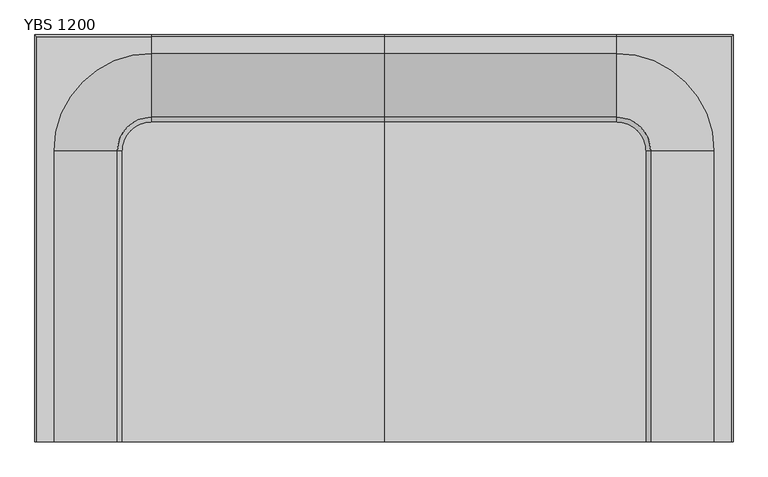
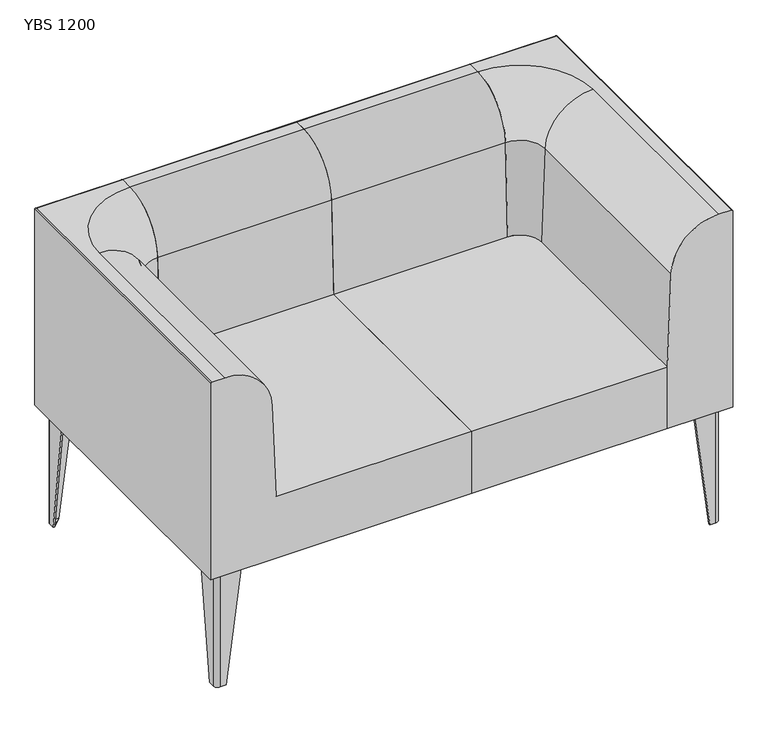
"""IFC4 building model written with IfcOpenShell, lengths in millimetres: furniture geometry, Mobiliário_Mobiliário de Escritório_LinhaYoung_Sofa Braço (Aço) - YB_Marelli : YBS 1200."""

from ifc_helpers import new_model, si_unit, point, frame, frame_2d, origin, origin_with_axes, place, context, project, spatial, polyline, circle_curve, ellipse_curve, trimmed, segment, composite_curve, outline, extrude, source, transform, mapped, element, save
from ifc_brep_helpers import plane_surface, cylinder_surface, revolved_surface, advanced_brep


def ybs_1200_3b72d0d0(model_context):
    return source(origin(), model_context, "Body", "SolidModel", [
        advanced_brep(
        [(20.0, 75.0, 280.0), (20.0, 25.0, 280.0), (30.0, 15.0, 280.0), (80.0, 15.0, 280.0), (80.0, 18.0, 280.0), (30.0, 18.0, 280.0), (23.0, 25.0, 280.0), (23.0, 75.0, 280.0), (20.0, 39.0, 0.0), (23.0, 39.0, 0.0), (23.0, 25.0, 0.0), (30.0, 18.0, 0.0), (44.0, 18.0, 0.0), (44.0, 15.0, 0.0), (30.0, 15.0, 0.0), (20.0, 25.0, 0.0)],
        [
            (0, 1),
            (1, 2, circle_curve(frame((30.0, 25.0, 280.0), z_axis=(0.0, 0.0, 1.0), x_axis=(0.0, -1.0, 0.0)), 10.0)),
            (2, 3),
            (3, 4),
            (4, 5),
            (5, 6, circle_curve(frame((30.0, 25.0, 280.0), z_axis=(0.0, 0.0, -1.0), x_axis=(-1.0, 0.0, 0.0)), 7.0)),
            (6, 7),
            (7, 0),
            (8, 9),
            (9, 10),
            (10, 11, circle_curve(frame((30.0, 25.0, 0.0), z_axis=(0.0, 0.0, 1.0), x_axis=(-1.0, 0.0, 0.0)), 7.0)),
            (11, 12),
            (12, 13),
            (13, 14),
            (14, 15, circle_curve(frame((30.0, 25.0, 0.0), z_axis=(0.0, 0.0, -1.0), x_axis=(0.0, -1.0, 0.0)), 10.0)),
            (15, 8),
            (15, 1),
            (0, 8),
            (14, 2),
            (13, 3),
            (12, 4),
            (11, 5),
            (10, 6),
            (9, 7),
        ],
        [
            plane_surface(frame((38.25, 33.25, 280.0), z_axis=(0.0, 0.0, 1.0), x_axis=(0.0, -1.0, 0.0))),
            plane_surface(frame((29.25, 24.25, 0.0), z_axis=(0.0, 0.0, -1.0), x_axis=(0.0, -1.0, 0.0))),
            plane_surface(frame((20.0, 32.0, 0.0), z_axis=(-1.0, 0.0, 0.0), x_axis=(0.0, -1.0, 0.0))),
            cylinder_surface(frame((30.0, 25.0, 0.0), z_axis=(0.0, 0.0, 1.0), x_axis=(0.0, -1.0, 0.0)), 10.0),
            plane_surface(frame((37.0, 15.0, 0.0), z_axis=(0.0, -1.0, 0.0), x_axis=(1.0, 0.0, 0.0))),
            plane_surface(frame((44.0, 16.5, 0.0), z_axis=(0.9918357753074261, 0.0, -0.12752174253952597), x_axis=(0.0, 1.0, 0.0))),
            plane_surface(frame((37.0, 18.0, 0.0), z_axis=(0.0, 1.0, 0.0), x_axis=(-1.0, 0.0, 0.0))),
            revolved_surface(polyline([(23.0, 25.0, 280.0), (23.0, 25.0, 0.0)]), (30.0, 25.0, 0.0), (0.0, 0.0, 1.0)),
            plane_surface(frame((23.0, 32.0, 0.0), z_axis=(1.0, 0.0, 0.0), x_axis=(0.0, 1.0, 0.0))),
            plane_surface(frame((21.5, 39.0, 0.0), z_axis=(0.0, 0.9918357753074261, -0.12752174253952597), x_axis=(-1.0, 0.0, 0.0))),
        ],
        [
            (0, [[1, 2, 3, 4, 5, 6, 7, 8]]),
            (1, [[9, 10, 11, 12, 13, 14, 15, 16]]),
            (2, [[-16, 17, -1, 18]]),
            (3, [[-15, 19, -2, -17]]),
            (4, [[-14, 20, -3, -19]]),
            (5, [[-13, 21, -4, -20]]),
            (6, [[-12, 22, -5, -21]]),
            (7, [[-11, 23, -6, -22]]),
            (8, [[-10, 24, -7, -23]]),
            (9, [[-9, -18, -8, -24]]),
        ],
    ),
        advanced_brep(
        [(1180.0, 75.0, 280.0), (1177.0, 75.0, 280.0), (1177.0, 25.0, 280.0), (1170.0, 18.0, 280.0), (1120.0, 18.0, 280.0), (1120.0, 15.0, 280.0), (1170.0, 15.0, 280.0), (1180.0, 25.0, 280.0), (1180.0, 39.0, 0.0), (1180.0, 25.0, 0.0), (1170.0, 15.0, 0.0), (1156.0, 15.0, 0.0), (1156.0, 18.0, 0.0), (1170.0, 18.0, 0.0), (1177.0, 25.0, 0.0), (1177.0, 39.0, 0.0)],
        [
            (0, 1),
            (1, 2),
            (2, 3, circle_curve(frame((1170.0, 25.0, 280.0), z_axis=(0.0, 0.0, -1.0), x_axis=(0.0, -1.0, 0.0)), 7.0)),
            (3, 4),
            (4, 5),
            (5, 6),
            (6, 7, circle_curve(frame((1170.0, 25.0, 280.0), z_axis=(0.0, 0.0, 1.0), x_axis=(1.0, 0.0, 0.0)), 10.0)),
            (7, 0),
            (8, 9),
            (9, 10, circle_curve(frame((1170.0, 25.0, 0.0), z_axis=(0.0, 0.0, -1.0), x_axis=(1.0, 0.0, 0.0)), 10.0)),
            (10, 11),
            (11, 12),
            (12, 13),
            (13, 14, circle_curve(frame((1170.0, 25.0, 0.0), z_axis=(0.0, 0.0, 1.0), x_axis=(0.0, -1.0, 0.0)), 7.0)),
            (14, 15),
            (15, 8),
            (8, 0),
            (7, 9),
            (6, 10),
            (5, 11),
            (4, 12),
            (3, 13),
            (2, 14),
            (1, 15),
        ],
        [
            plane_surface(frame((1161.75, 33.25, 280.0), z_axis=(0.0, 0.0, 1.0), x_axis=(-1.0, 0.0, 0.0))),
            plane_surface(frame((1170.75, 24.25, 0.0), z_axis=(0.0, 0.0, -1.0), x_axis=(-1.0, 0.0, 0.0))),
            plane_surface(frame((1180.0, 32.0, 0.0), z_axis=(1.0, 0.0, 0.0), x_axis=(0.0, 1.0, 0.0))),
            cylinder_surface(frame((1170.0, 25.0, 0.0), z_axis=(0.0, 0.0, 1.0), x_axis=(1.0, 0.0, 0.0)), 10.0),
            plane_surface(frame((1163.0, 15.0, 0.0), z_axis=(0.0, -1.0, 0.0), x_axis=(1.0, 0.0, 0.0))),
            plane_surface(frame((1156.0, 16.5, 0.0), z_axis=(-0.9918357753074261, 0.0, -0.127521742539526), x_axis=(0.0, -1.0, 0.0))),
            plane_surface(frame((1163.0, 18.0, 0.0), z_axis=(0.0, 1.0, 0.0), x_axis=(-1.0, 0.0, 0.0))),
            revolved_surface(polyline([(1170.0, 18.0, 280.0), (1170.0, 18.0, 0.0)]), (1170.0, 25.0, 0.0), (0.0, 0.0, 1.0)),
            plane_surface(frame((1177.0, 32.0, 0.0), z_axis=(-1.0, 0.0, 0.0), x_axis=(0.0, -1.0, 0.0))),
            plane_surface(frame((1178.5, 39.0, 0.0), z_axis=(0.0, 0.9918357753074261, -0.12752174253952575), x_axis=(-1.0, 0.0, 0.0))),
        ],
        [
            (0, [[1, 2, 3, 4, 5, 6, 7, 8]]),
            (1, [[9, 10, 11, 12, 13, 14, 15, 16]]),
            (2, [[-9, 17, -8, 18]]),
            (3, [[-10, -18, -7, 19]]),
            (4, [[-11, -19, -6, 20]]),
            (5, [[-12, -20, -5, 21]]),
            (6, [[-13, -21, -4, 22]]),
            (7, [[-14, -22, -3, 23]]),
            (8, [[-15, -23, -2, 24]]),
            (9, [[-16, -24, -1, -17]]),
        ],
    ),
        advanced_brep(
        [(20.0, 625.0, 280.0), (23.0, 625.0, 280.0), (23.0, 675.0, 280.0), (30.0, 682.0, 280.0), (80.0, 682.0, 280.0), (80.0, 685.0, 280.0), (30.0, 685.0, 280.0), (20.0, 675.0, 280.0), (20.0, 661.0, 0.0), (20.0, 675.0, 0.0), (30.0, 685.0, 0.0), (44.0, 685.0, 0.0), (44.0, 682.0, 0.0), (30.0, 682.0, 0.0), (23.0, 675.0, 0.0), (23.0, 661.0, 0.0)],
        [
            (0, 1),
            (1, 2),
            (2, 3, circle_curve(frame((30.0, 675.0, 280.0), z_axis=(0.0, 0.0, -1.0), x_axis=(0.0, 1.0, 0.0)), 7.0)),
            (3, 4),
            (4, 5),
            (5, 6),
            (6, 7, circle_curve(frame((30.0, 675.0, 280.0), z_axis=(0.0, 0.0, 1.0), x_axis=(-1.0, 0.0, 0.0)), 10.0)),
            (7, 0),
            (8, 9),
            (9, 10, circle_curve(frame((30.0, 675.0, 0.0), z_axis=(0.0, 0.0, -1.0), x_axis=(-1.0, 0.0, 0.0)), 10.0)),
            (10, 11),
            (11, 12),
            (12, 13),
            (13, 14, circle_curve(frame((30.0, 675.0, 0.0), z_axis=(0.0, 0.0, 1.0), x_axis=(0.0, 1.0, 0.0)), 7.0)),
            (14, 15),
            (15, 8),
            (8, 0),
            (7, 9),
            (6, 10),
            (5, 11),
            (4, 12),
            (3, 13),
            (2, 14),
            (1, 15),
        ],
        [
            plane_surface(frame((38.25, 666.75, 280.0), z_axis=(0.0, 0.0, 1.0), x_axis=(1.0, 0.0, 0.0))),
            plane_surface(frame((29.25, 675.75, 0.0), z_axis=(0.0, 0.0, -1.0), x_axis=(1.0, 0.0, 0.0))),
            plane_surface(frame((20.0, 668.0, 0.0), z_axis=(-1.0, 0.0, 0.0), x_axis=(0.0, -1.0, 0.0))),
            cylinder_surface(frame((30.0, 675.0, 0.0), z_axis=(0.0, 0.0, 1.0), x_axis=(-1.0, 0.0, 0.0)), 10.0),
            plane_surface(frame((37.0, 685.0, 0.0), z_axis=(0.0, 1.0, 0.0), x_axis=(-1.0, 0.0, 0.0))),
            plane_surface(frame((44.0, 683.5, 0.0), z_axis=(0.9918357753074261, 0.0, -0.12752174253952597), x_axis=(0.0, 1.0, 0.0))),
            plane_surface(frame((37.0, 682.0, 0.0), z_axis=(0.0, -1.0, 0.0), x_axis=(1.0, 0.0, 0.0))),
            revolved_surface(polyline([(30.0, 682.0, 280.0), (30.0, 682.0, 0.0)]), (30.0, 675.0, 0.0), (0.0, 0.0, 1.0)),
            plane_surface(frame((23.0, 668.0, 0.0), z_axis=(1.0, 0.0, 0.0), x_axis=(0.0, 1.0, 0.0))),
            plane_surface(frame((21.5, 661.0, 0.0), z_axis=(0.0, -0.9918357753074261, -0.127521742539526), x_axis=(1.0, 0.0, 0.0))),
        ],
        [
            (0, [[1, 2, 3, 4, 5, 6, 7, 8]]),
            (1, [[9, 10, 11, 12, 13, 14, 15, 16]]),
            (2, [[-9, 17, -8, 18]]),
            (3, [[-10, -18, -7, 19]]),
            (4, [[-11, -19, -6, 20]]),
            (5, [[-12, -20, -5, 21]]),
            (6, [[-13, -21, -4, 22]]),
            (7, [[-14, -22, -3, 23]]),
            (8, [[-15, -23, -2, 24]]),
            (9, [[-16, -24, -1, -17]]),
        ],
    ),
        advanced_brep(
        [(1180.0, 625.0, 280.0), (1180.0, 675.0, 280.0), (1170.0, 685.0, 280.0), (1120.0, 685.0, 280.0), (1120.0, 682.0, 280.0), (1170.0, 682.0, 280.0), (1177.0, 675.0, 280.0), (1177.0, 625.0, 280.0), (1180.0, 661.0, 0.0), (1177.0, 661.0, 0.0), (1177.0, 675.0, 0.0), (1170.0, 682.0, 0.0), (1156.0, 682.0, 0.0), (1156.0, 685.0, 0.0), (1170.0, 685.0, 0.0), (1180.0, 675.0, 0.0)],
        [
            (0, 1),
            (1, 2, circle_curve(frame((1170.0, 675.0, 280.0), z_axis=(0.0, 0.0, 1.0), x_axis=(0.0, 1.0, 0.0)), 10.0)),
            (2, 3),
            (3, 4),
            (4, 5),
            (5, 6, circle_curve(frame((1170.0, 675.0, 280.0), z_axis=(0.0, 0.0, -1.0), x_axis=(1.0, 0.0, 0.0)), 7.0)),
            (6, 7),
            (7, 0),
            (8, 9),
            (9, 10),
            (10, 11, circle_curve(frame((1170.0, 675.0, 0.0), z_axis=(0.0, 0.0, 1.0), x_axis=(1.0, 0.0, 0.0)), 7.0)),
            (11, 12),
            (12, 13),
            (13, 14),
            (14, 15, circle_curve(frame((1170.0, 675.0, 0.0), z_axis=(0.0, 0.0, -1.0), x_axis=(0.0, 1.0, 0.0)), 10.0)),
            (15, 8),
            (15, 1),
            (0, 8),
            (14, 2),
            (13, 3),
            (12, 4),
            (11, 5),
            (10, 6),
            (9, 7),
        ],
        [
            plane_surface(frame((1161.75, 666.75, 280.0), z_axis=(0.0, 0.0, 1.0), x_axis=(0.0, 1.0, 0.0))),
            plane_surface(frame((1170.75, 675.75, 0.0), z_axis=(0.0, 0.0, -1.0), x_axis=(0.0, 1.0, 0.0))),
            plane_surface(frame((1180.0, 668.0, 0.0), z_axis=(1.0, 0.0, 0.0), x_axis=(0.0, 1.0, 0.0))),
            cylinder_surface(frame((1170.0, 675.0, 0.0), z_axis=(0.0, 0.0, 1.0), x_axis=(0.0, 1.0, 0.0)), 10.0),
            plane_surface(frame((1163.0, 685.0, 0.0), z_axis=(0.0, 1.0, 0.0), x_axis=(-1.0, 0.0, 0.0))),
            plane_surface(frame((1156.0, 683.5, 0.0), z_axis=(-0.991835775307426, 0.0, -0.12752174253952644), x_axis=(0.0, -1.0, 0.0))),
            plane_surface(frame((1163.0, 682.0, 0.0), z_axis=(0.0, -1.0, 0.0), x_axis=(1.0, 0.0, 0.0))),
            revolved_surface(polyline([(1177.0, 675.0, 280.0), (1177.0, 675.0, 0.0)]), (1170.0, 675.0, 0.0), (0.0, 0.0, 1.0)),
            plane_surface(frame((1177.0, 668.0, 0.0), z_axis=(-1.0, 0.0, 0.0), x_axis=(0.0, -1.0, 0.0))),
            plane_surface(frame((1178.5, 661.0, 0.0), z_axis=(0.0, -0.9918357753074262, -0.12752174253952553), x_axis=(1.0, 0.0, 0.0))),
        ],
        [
            (0, [[1, 2, 3, 4, 5, 6, 7, 8]]),
            (1, [[9, 10, 11, 12, 13, 14, 15, 16]]),
            (2, [[-16, 17, -1, 18]]),
            (3, [[-15, 19, -2, -17]]),
            (4, [[-14, 20, -3, -19]]),
            (5, [[-13, 21, -4, -20]]),
            (6, [[-12, 22, -5, -21]]),
            (7, [[-11, 23, -6, -22]]),
            (8, [[-10, 24, -7, -23]]),
            (9, [[-9, -18, -8, -24]]),
        ],
    ),
        extrude(outline(composite_curve([segment(polyline([(23.0, 39.0), (44.0, 18.0), (30.0, 18.0)]), True, "CONTINUOUS"), segment(trimmed(circle_curve(frame_2d((30.0, 25.0)), 7.0), [point((30.0, 18.0))], [point((23.0, 25.0))], False, "CARTESIAN"), True, "CONTINUOUS"), segment(polyline([(23.0, 25.0), (23.0, 39.0)]), True, "CONTINUOUS")], self_intersect=False)), origin_with_axes(), (0.0, 0.0, 1.0), 1.0),
        extrude(outline(composite_curve([segment(polyline([(23.0, 661.0), (23.0, 675.0)]), True, "CONTINUOUS"), segment(trimmed(circle_curve(frame_2d((30.0, 675.0)), 7.0), [point((23.0, 675.0))], [point((30.0, 682.0))], False, "CARTESIAN"), True, "CONTINUOUS"), segment(polyline([(30.0, 682.0), (44.0, 682.0), (23.0, 661.0)]), True, "CONTINUOUS")], self_intersect=False)), origin_with_axes(), (0.0, 0.0, 1.0), 1.0),
        extrude(outline(composite_curve([segment(polyline([(1177.0, 39.0), (1177.0, 25.0)]), True, "CONTINUOUS"), segment(trimmed(circle_curve(frame_2d((1170.0, 25.0)), 7.0), [point((1177.0, 25.0))], [point((1170.0, 18.0))], False, "CARTESIAN"), True, "CONTINUOUS"), segment(polyline([(1170.0, 18.0), (1156.0, 18.0), (1177.0, 39.0)]), True, "CONTINUOUS")], self_intersect=False)), origin_with_axes(), (0.0, 0.0, 1.0), 1.0),
        extrude(outline(composite_curve([segment(polyline([(1177.0, 661.0), (1156.0, 682.0), (1170.0, 682.0)]), True, "CONTINUOUS"), segment(trimmed(circle_curve(frame_2d((1170.0, 675.0)), 7.0), [point((1170.0, 682.0))], [point((1177.0, 675.0))], False, "CARTESIAN"), True, "CONTINUOUS"), segment(polyline([(1177.0, 675.0), (1177.0, 661.0)]), True, "CONTINUOUS")], self_intersect=False)), origin_with_axes(), (0.0, 0.0, 1.0), 1.0),
        extrude(outline(composite_curve([segment(trimmed(circle_curve(frame_2d((30.0, 25.0)), 7.0), [point((30.0, 18.0))], [point((23.0, 25.0))], False, "CARTESIAN"), True, "CONTINUOUS"), segment(polyline([(23.0, 25.0), (23.0, 93.0)]), True, "CONTINUOUS"), segment(trimmed(circle_curve(frame_2d((28.0, 93.0)), 5.0), [point((23.0, 93.0))], [point((28.0, 98.0))], False, "CARTESIAN"), True, "CONTINUOUS"), segment(polyline([(28.0, 98.0), (51.9545624, 98.0)]), True, "CONTINUOUS"), segment(trimmed(circle_curve(frame_2d((52.6241051, 89.931755)), 8.0959783), [point((51.9545624, 98.0))], [point((58.520382, 95.479618))], False, "CARTESIAN"), True, "CONTINUOUS"), segment(polyline([(58.520382, 95.479618), (100.479618, 53.520382)]), True, "CONTINUOUS"), segment(trimmed(circle_curve(frame_2d((94.931755, 47.6241051)), 8.0959783), [point((100.479618, 53.520382))], [point((103.0, 46.9545624))], False, "CARTESIAN"), True, "CONTINUOUS"), segment(polyline([(103.0, 46.9545624), (103.0, 23.0)]), True, "CONTINUOUS"), segment(trimmed(circle_curve(frame_2d((98.0, 23.0)), 5.0), [point((103.0, 23.0))], [point((98.0, 18.0))], False, "CARTESIAN"), True, "CONTINUOUS"), segment(polyline([(98.0, 18.0), (30.0, 18.0)]), True, "CONTINUOUS")], self_intersect=False)), frame((0.0, 0.0, 279.0), z_axis=(0.0, 0.0, 1.0), x_axis=(1.0, 0.0, 0.0)), (0.0, 0.0, 1.0), 1.0),
        extrude(outline(composite_curve([segment(polyline([(30.0, 682.0), (98.0, 682.0)]), True, "CONTINUOUS"), segment(trimmed(circle_curve(frame_2d((98.0, 677.0)), 5.0), [point((98.0, 682.0))], [point((103.0, 677.0))], False, "CARTESIAN"), True, "CONTINUOUS"), segment(polyline([(103.0, 677.0), (103.0, 653.0454376)]), True, "CONTINUOUS"), segment(trimmed(circle_curve(frame_2d((94.931755, 652.3758949)), 8.0959783), [point((103.0, 653.0454376))], [point((100.479618, 646.479618))], False, "CARTESIAN"), True, "CONTINUOUS"), segment(polyline([(100.479618, 646.479618), (58.520382, 604.520382)]), True, "CONTINUOUS"), segment(trimmed(circle_curve(frame_2d((52.6241051, 610.068245)), 8.0959783), [point((58.520382, 604.520382))], [point((51.9545624, 602.0))], False, "CARTESIAN"), True, "CONTINUOUS"), segment(polyline([(51.9545624, 602.0), (28.0, 602.0)]), True, "CONTINUOUS"), segment(trimmed(circle_curve(frame_2d((28.0, 607.0)), 5.0), [point((28.0, 602.0))], [point((23.0, 607.0))], False, "CARTESIAN"), True, "CONTINUOUS"), segment(polyline([(23.0, 607.0), (23.0, 675.0)]), True, "CONTINUOUS"), segment(trimmed(circle_curve(frame_2d((30.0, 675.0)), 7.0), [point((23.0, 675.0))], [point((30.0, 682.0))], False, "CARTESIAN"), True, "CONTINUOUS")], self_intersect=False)), frame((0.0, 0.0, 279.0), z_axis=(0.0, 0.0, 1.0), x_axis=(1.0, 0.0, 0.0)), (0.0, 0.0, 1.0), 1.0),
        extrude(outline(composite_curve([segment(trimmed(circle_curve(frame_2d((1170.0, 675.0)), 7.0), [point((1170.0, 682.0))], [point((1177.0, 675.0))], False, "CARTESIAN"), True, "CONTINUOUS"), segment(polyline([(1177.0, 675.0), (1177.0, 607.0)]), True, "CONTINUOUS"), segment(trimmed(circle_curve(frame_2d((1172.0, 607.0)), 5.0), [point((1177.0, 607.0))], [point((1172.0, 602.0))], False, "CARTESIAN"), True, "CONTINUOUS"), segment(polyline([(1172.0, 602.0), (1148.0454376, 602.0)]), True, "CONTINUOUS"), segment(trimmed(circle_curve(frame_2d((1147.3758949, 610.068245)), 8.0959783), [point((1148.0454376, 602.0))], [point((1141.479618, 604.520382))], False, "CARTESIAN"), True, "CONTINUOUS"), segment(polyline([(1141.479618, 604.520382), (1099.520382, 646.479618)]), True, "CONTINUOUS"), segment(trimmed(circle_curve(frame_2d((1105.068245, 652.3758949)), 8.0959783), [point((1099.520382, 646.479618))], [point((1097.0, 653.0454376))], False, "CARTESIAN"), True, "CONTINUOUS"), segment(polyline([(1097.0, 653.0454376), (1097.0, 677.0)]), True, "CONTINUOUS"), segment(trimmed(circle_curve(frame_2d((1102.0, 677.0)), 5.0), [point((1097.0, 677.0))], [point((1102.0, 682.0))], False, "CARTESIAN"), True, "CONTINUOUS"), segment(polyline([(1102.0, 682.0), (1170.0, 682.0)]), True, "CONTINUOUS")], self_intersect=False)), frame((0.0, 0.0, 279.0), z_axis=(0.0, 0.0, 1.0), x_axis=(1.0, 0.0, 0.0)), (0.0, 0.0, 1.0), 1.0),
        extrude(outline(composite_curve([segment(polyline([(1170.0, 18.0), (1102.0, 18.0)]), True, "CONTINUOUS"), segment(trimmed(circle_curve(frame_2d((1102.0, 23.0)), 5.0), [point((1102.0, 18.0))], [point((1097.0, 23.0))], False, "CARTESIAN"), True, "CONTINUOUS"), segment(polyline([(1097.0, 23.0), (1097.0, 46.9545624)]), True, "CONTINUOUS"), segment(trimmed(circle_curve(frame_2d((1105.068245, 47.6241051)), 8.0959783), [point((1097.0, 46.9545624))], [point((1099.520382, 53.520382))], False, "CARTESIAN"), True, "CONTINUOUS"), segment(polyline([(1099.520382, 53.520382), (1141.479618, 95.479618)]), True, "CONTINUOUS"), segment(trimmed(circle_curve(frame_2d((1147.3758949, 89.931755)), 8.0959783), [point((1141.479618, 95.479618))], [point((1148.0454376, 98.0))], False, "CARTESIAN"), True, "CONTINUOUS"), segment(polyline([(1148.0454376, 98.0), (1172.0, 98.0)]), True, "CONTINUOUS"), segment(trimmed(circle_curve(frame_2d((1172.0, 93.0)), 5.0), [point((1172.0, 98.0))], [point((1177.0, 93.0))], False, "CARTESIAN"), True, "CONTINUOUS"), segment(polyline([(1177.0, 93.0), (1177.0, 25.0)]), True, "CONTINUOUS"), segment(trimmed(circle_curve(frame_2d((1170.0, 25.0)), 7.0), [point((1177.0, 25.0))], [point((1170.0, 18.0))], False, "CARTESIAN"), True, "CONTINUOUS")], self_intersect=False)), frame((0.0, 0.0, 279.0), z_axis=(0.0, 0.0, 1.0), x_axis=(1.0, 0.0, 0.0)), (0.0, 0.0, 1.0), 1.0),
        advanced_brep(
        [(1168.0, 0.0, 760.0), (1058.2568376, 0.0, 654.223651), (1050.0, 0.0, 430.0), (1050.0, 0.0, 280.0), (1200.0, 0.0, 280.0), (1200.0, 0.0, 756.9835797), (1196.9835797, 0.0, 760.0), (1000.0, 668.0, 760.0), (1168.0, 500.0, 760.0), (1196.9835797, 696.9835797, 760.0), (1000.0, 696.9835797, 760.0), (1058.2568376, 500.0, 654.223651), (1050.0, 500.0, 430.0), (1050.0, 500.0, 280.0), (1000.0, 550.0, 280.0), (1000.0, 700.0, 280.0), (1200.0, 700.0, 280.0), (1200.0, 700.0, 756.9835797), (1000.0, 558.2568376, 654.223651), (1000.0, 550.0, 430.0), (1000.0, 700.0, 756.9835797)],
        [
            (0, 1, circle_curve(frame((1168.0, 0.0, 650.1824561), z_axis=(0.0, -1.0, 0.0), x_axis=(-1.0, 0.0, 0.0)), 109.8175439)),
            (1, 2),
            (2, 3),
            (3, 4),
            (4, 5),
            (5, 6, circle_curve(frame((1196.9835797, 0.0, 756.9835797), z_axis=(0.0, -1.0, 0.0), x_axis=(-1.0, 0.0, 0.0)), 3.0164203)),
            (6, 0),
            (7, 8, circle_curve(frame((1000.0, 500.0, 760.0), z_axis=(0.0, 0.0, -1.0), x_axis=(1.0, 0.0, 0.0)), 168.0)),
            (8, 0),
            (6, 9),
            (9, 10),
            (10, 7),
            (8, 11, circle_curve(frame((1168.0, 500.0, 650.1824561), z_axis=(0.0, -1.0, 0.0), x_axis=(-1.0, 0.0, 0.0)), 109.8175439)),
            (11, 1),
            (11, 12),
            (12, 2),
            (12, 13),
            (13, 3),
            (13, 14, circle_curve(frame((1000.0, 500.0, 280.0), z_axis=(0.0, 0.0, 1.0), x_axis=(1.0, 0.0, 0.0)), 50.0)),
            (14, 15),
            (15, 16),
            (16, 4),
            (16, 17),
            (17, 5),
            (7, 18, circle_curve(frame((1000.0, 668.0, 650.1824561), z_axis=(1.0, 0.0, 0.0), x_axis=(0.0, -1.0, 0.0)), 109.8175439)),
            (18, 11, circle_curve(frame((1000.0, 500.0, 654.223651), z_axis=(0.0, 0.0, -1.0), x_axis=(1.0, 0.0, 0.0)), 58.2568376)),
            (18, 19),
            (19, 12, circle_curve(frame((1000.0, 500.0, 430.0), z_axis=(0.0, 0.0, -1.0), x_axis=(1.0, 0.0, 0.0)), 50.0)),
            (19, 14),
            (20, 10, circle_curve(frame((1000.0, 696.9835797, 756.9835797), z_axis=(1.0, 0.0, 0.0), x_axis=(0.0, 1.0, 0.0)), 3.0164203)),
            (9, 17, ellipse_curve(frame((1196.9835797, 696.9835797, 756.9835797), z_axis=(-0.7071067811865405, 0.7071067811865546, 0.0), x_axis=(0.7071067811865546, 0.7071067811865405, 0.0)), 4.2658626, 3.0164203)),
            (17, 20),
            (20, 15),
        ],
        [
            plane_surface(frame((1050.0, 0.0, 0.0), z_axis=(0.0, -1.0, 0.0), x_axis=(0.0, 0.0, 1.0))),
            plane_surface(frame((1200.0, 0.0, 760.0), z_axis=(0.0, 0.0, 1.0), x_axis=(0.0, 1.0, 0.0))),
            cylinder_surface(frame((1168.0, 0.0, 650.1824561), z_axis=(0.0, -1.0, 0.0), x_axis=(-1.0, 0.0, 0.0)), 109.8175439),
            plane_surface(frame((1058.2568376, 0.0, 654.223651), z_axis=(-0.9993226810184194, 0.0, 0.03679917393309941), x_axis=(0.0, 1.0, 0.0))),
            plane_surface(frame((1050.0, 0.0, 430.0), z_axis=(-1.0, 0.0, 0.0), x_axis=(0.0, 1.0, 0.0))),
            plane_surface(frame((1050.0, 0.0, 280.0), z_axis=(0.0, 0.0, -1.0), x_axis=(0.0, 1.0, 0.0))),
            plane_surface(frame((1200.0, 0.0, 280.0), z_axis=(1.0, 0.0, 0.0), x_axis=(0.0, 1.0, 0.0))),
            revolved_surface(trimmed(ellipse_curve(frame((1168.0, 500.0, 650.1824561), z_axis=(0.0, -1.0, 0.0), x_axis=(-1.0, 0.0, 0.0)), 109.8175439, 109.8175439), [point((1168.0, 500.0, 760.0))], [point((1058.2568376, 500.0, 654.223651))], True, "CARTESIAN"), (1000.0, 500.0, 0.0), (0.0, 0.0, 1.0)),
            revolved_surface(polyline([(1058.2568376, 500.0, 654.223651), (1050.0, 500.0, 430.0)]), (1000.0, 500.0, 0.0), (0.0, 0.0, 1.0)),
            revolved_surface(polyline([(1050.0, 500.0, 430.0), (1050.0, 500.0, 280.0)]), (1000.0, 500.0, 0.0), (0.0, 0.0, 1.0)),
            cylinder_surface(frame((1200.0, 696.9835797, 756.9835797), z_axis=(1.0, 0.0, 0.0), x_axis=(0.0, 1.0, 0.0)), 3.0164203),
            plane_surface(frame((1000.0, 550.0, 0.0), z_axis=(-1.0, 0.0, 0.0), x_axis=(0.0, 0.0, 1.0))),
            plane_surface(frame((1200.0, 700.0, 760.0), z_axis=(0.0, 1.0, 0.0), x_axis=(0.0, 0.0, -1.0))),
            cylinder_surface(frame((1196.9835797, 0.0, 756.9835797), z_axis=(0.0, 1.0, 0.0), x_axis=(-1.0, 0.0, 0.0)), 3.0164203),
        ],
        [
            (0, [[1, 2, 3, 4, 5, 6, 7]]),
            (1, [[8, 9, -7, 10, 11, 12]]),
            (2, [[-1, -9, 13, 14]]),
            (3, [[-2, -14, 15, 16]]),
            (4, [[-3, -16, 17, 18]]),
            (5, [[-4, -18, 19, 20, 21, 22]]),
            (6, [[-22, 23, 24, -5]]),
            (7, [[-8, 25, 26, -13]]),
            (8, [[-15, -26, 27, 28]]),
            (9, [[-17, -28, 29, -19]]),
            (10, [[30, -11, 31, 32]]),
            (11, [[-20, -29, -27, -25, -12, -30, 33]]),
            (12, [[-21, -33, -32, -23]]),
            (13, [[-6, -24, -31, -10]]),
        ],
    ),
        advanced_brep(
        [(200.0, 700.0, 756.9835797), (0.0, 700.0, 756.9835797), (3.0164203, 696.9835797, 760.0), (200.0, 696.9835797, 760.0), (600.0, 550.0, 430.0), (200.0, 550.0, 430.0), (150.0, 500.0, 430.0), (150.0, 0.0, 430.0), (600.0, 0.0, 430.0), (600.0, 550.0, 280.0), (200.0, 550.0, 280.0), (32.0, 0.0, 760.0), (32.0, 500.0, 760.0), (200.0, 668.0, 760.0), (3.0164203, 0.0, 760.0), (0.0, 700.0, 280.0), (200.0, 700.0, 280.0), (600.0, 0.0, 280.0), (0.0, 0.0, 280.0), (0.0, 0.0, 756.9835797), (141.7431624, 0.0, 654.223651), (141.7431624, 500.0, 654.223651), (200.0, 558.2568376, 654.223651)],
        [
            (0, 1),
            (1, 2, ellipse_curve(frame((3.0164203, 696.9835797, 756.9835797), z_axis=(0.7071067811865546, 0.7071067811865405, 0.0), x_axis=(0.7071067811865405, -0.7071067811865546, 0.0)), 4.2658626, 3.0164203)),
            (2, 3),
            (3, 0, circle_curve(frame((200.0, 696.9835797, 756.9835797), z_axis=(-1.0, 0.0, 0.0), x_axis=(0.0, 1.0, 0.0)), 3.0164203)),
            (4, 5),
            (5, 6, circle_curve(frame((200.0, 500.0, 430.0), z_axis=(0.0, 0.0, 1.0), x_axis=(-1.0, 0.0, 0.0)), 50.0)),
            (6, 7),
            (7, 8),
            (8, 4),
            (4, 9),
            (9, 10),
            (10, 5),
            (11, 12),
            (12, 13, circle_curve(frame((200.0, 500.0, 760.0), z_axis=(0.0, 0.0, -1.0), x_axis=(-1.0, 0.0, 0.0)), 168.0)),
            (13, 3),
            (2, 14),
            (14, 11),
            (15, 16),
            (16, 10),
            (9, 17),
            (17, 18),
            (18, 15),
            (15, 1),
            (0, 16),
            (18, 19),
            (19, 1),
            (19, 14, circle_curve(frame((3.0164203, 0.0, 756.9835797), z_axis=(0.0, 1.0, 0.0), x_axis=(-1.0, 0.0, 0.0)), 3.0164203)),
            (7, 20),
            (20, 11, circle_curve(frame((32.0, 0.0, 650.1824561), z_axis=(0.0, -1.0, 0.0), x_axis=(-1.0, 0.0, 0.0)), 109.8175439)),
            (17, 8),
            (20, 21),
            (21, 12, circle_curve(frame((32.0, 500.0, 650.1824561), z_axis=(0.0, -1.0, 0.0), x_axis=(-1.0, 0.0, 0.0)), 109.8175439)),
            (6, 21),
            (13, 22, circle_curve(frame((200.0, 668.0, 650.1824561), z_axis=(1.0, 0.0, 0.0), x_axis=(0.0, 1.0, 0.0)), 109.8175439)),
            (22, 5),
            (21, 22, circle_curve(frame((200.0, 500.0, 654.223651), z_axis=(0.0, 0.0, -1.0), x_axis=(-1.0, 0.0, 0.0)), 58.2568376)),
        ],
        [
            cylinder_surface(frame((1200.0, 696.9835797, 756.9835797), z_axis=(1.0, 0.0, 0.0), x_axis=(0.0, 1.0, 0.0)), 3.0164203),
            plane_surface(frame((200.0, 550.0, 430.0), z_axis=(0.0, 0.0, 1.0), x_axis=(-1.0, 0.0, 0.0))),
            plane_surface(frame((600.0, 550.0, 430.0), z_axis=(0.0, 1.0, 0.0), x_axis=(0.0, 0.0, -1.0))),
            plane_surface(frame((0.0, 500.0, 760.0), z_axis=(0.0, 0.0, 1.0), x_axis=(0.0, -1.0, 0.0))),
            plane_surface(frame((0.0, 500.0, 280.0), z_axis=(0.0, 0.0, -1.0), x_axis=(0.0, 1.0, 0.0))),
            plane_surface(frame((200.0, 700.0, 760.0), z_axis=(0.0, 1.0, 0.0), x_axis=(0.0, 0.0, -1.0))),
            plane_surface(frame((0.0, 700.0, 760.0), z_axis=(-1.0, 0.0, 0.0), x_axis=(0.0, 0.0, -1.0))),
            cylinder_surface(frame((3.0164203, 700.0, 756.9835797), z_axis=(0.0, 1.0, 0.0), x_axis=(-1.0, 0.0, 0.0)), 3.0164203),
            plane_surface(frame((150.0, 0.0, 0.0), z_axis=(0.0, -1.0, 0.0), x_axis=(0.0, 0.0, 1.0))),
            cylinder_surface(frame((32.0, 0.0, 650.1824561), z_axis=(0.0, -1.0, 0.0), x_axis=(-1.0, 0.0, 0.0)), 109.8175439),
            plane_surface(frame((150.0, 0.0, 430.0), z_axis=(0.9993226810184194, 0.0, 0.036799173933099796), x_axis=(0.0, 1.0, 0.0))),
            plane_surface(frame((200.0, 550.0, 0.0), z_axis=(1.0, 0.0, 0.0), x_axis=(0.0, 0.0, 1.0))),
            revolved_surface(trimmed(ellipse_curve(frame((32.0, 500.0, 650.1824561), z_axis=(0.0, -1.0, 0.0), x_axis=(-1.0, 0.0, 0.0)), 109.8175439, 109.8175439), [point((141.7431624, 500.0, 654.223651))], [point((32.0, 500.0, 760.0))], True, "CARTESIAN"), (200.0, 500.0, 0.0), (0.0, 0.0, -1.0)),
            revolved_surface(polyline([(150.0, 500.0, 430.0), (141.7431624, 500.0, 654.223651)]), (200.0, 500.0, 0.0), (0.0, 0.0, -1.0)),
            plane_surface(frame((600.0, 0.0, 430.0), z_axis=(1.0, 0.0, 0.0), x_axis=(0.0, 0.0, -1.0))),
        ],
        [
            (0, [[1, 2, 3, 4]]),
            (1, [[5, 6, 7, 8, 9]]),
            (2, [[-5, 10, 11, 12]]),
            (3, [[13, 14, 15, -3, 16, 17]]),
            (4, [[18, 19, -11, 20, 21, 22]]),
            (5, [[-18, 23, -1, 24]]),
            (6, [[-22, 25, 26, -23]]),
            (7, [[-16, -2, -26, 27]]),
            (8, [[28, 29, -17, -27, -25, -21, 30, -8]]),
            (9, [[-29, 31, 32, -13]]),
            (10, [[-28, -7, 33, -31]]),
            (11, [[-19, -24, -4, -15, 34, 35, -12]]),
            (12, [[-14, -32, 36, -34]]),
            (13, [[-33, -6, -35, -36]]),
            (14, [[-9, -30, -20, -10]]),
        ],
    ),
        extrude(outline(composite_curve([segment(polyline([(600.0, 550.0), (1000.0, 550.0)]), True, "CONTINUOUS"), segment(trimmed(circle_curve(frame_2d((1000.0, 500.0)), 50.0), [point((1000.0, 550.0))], [point((1050.0, 500.0))], False, "CARTESIAN"), True, "CONTINUOUS"), segment(polyline([(1050.0, 500.0), (1050.0, 0.0), (600.0, 0.0), (600.0, 550.0)]), True, "CONTINUOUS")], self_intersect=False)), frame((0.0, 0.0, 280.0), z_axis=(0.0, 0.0, 1.0), x_axis=(1.0, 0.0, 0.0)), (0.0, 0.0, 1.0), 150.0),
        extrude(outline(composite_curve([segment(polyline([(550.0, 430.0), (558.2568376, 654.223651)]), True, "CONTINUOUS"), segment(trimmed(circle_curve(frame_2d((668.0, 650.1824561)), 109.8175439), [point((558.2568376, 654.223651))], [point((668.0, 760.0))], False, "CARTESIAN"), True, "CONTINUOUS"), segment(polyline([(668.0, 760.0), (696.9835797, 760.0)]), True, "CONTINUOUS"), segment(trimmed(circle_curve(frame_2d((696.9835797, 756.9835797)), 3.0164203), [point((696.9835797, 760.0))], [point((700.0, 756.9835797))], False, "CARTESIAN"), True, "CONTINUOUS"), segment(polyline([(700.0, 756.9835797), (700.0, 280.0), (550.0, 280.0), (550.0, 430.0)]), True, "CONTINUOUS")], self_intersect=False)), frame((200.0, 0.0, 0.0), z_axis=(1.0, 0.0, 0.0), x_axis=(0.0, 1.0, 0.0)), (0.0, 0.0, 1.0), 400.0),
        extrude(outline(composite_curve([segment(polyline([(550.0, 430.0), (558.2568376, 654.223651)]), True, "CONTINUOUS"), segment(trimmed(circle_curve(frame_2d((668.0, 650.1824561)), 109.8175439), [point((558.2568376, 654.223651))], [point((668.0, 760.0))], False, "CARTESIAN"), True, "CONTINUOUS"), segment(polyline([(668.0, 760.0), (696.9835797, 760.0)]), True, "CONTINUOUS"), segment(trimmed(circle_curve(frame_2d((696.9835797, 756.9835797)), 3.0164203), [point((696.9835797, 760.0))], [point((700.0, 756.9835797))], False, "CARTESIAN"), True, "CONTINUOUS"), segment(polyline([(700.0, 756.9835797), (700.0, 280.0), (550.0, 280.0), (550.0, 430.0)]), True, "CONTINUOUS")], self_intersect=False)), frame((600.0, 0.0, 0.0), z_axis=(1.0, 0.0, 0.0), x_axis=(0.0, 1.0, 0.0)), (0.0, 0.0, 1.0), 400.0),
    ])


if __name__ == "__main__":
    model = new_model("IFC4")
    model_context = context("Model", 3, world=origin())
    ifc_project = project(units=[si_unit("LENGTHUNIT", "METRE", prefix="MILLI")], contexts=[model_context])
    site = spatial("IfcSite", under=ifc_project)
    building = spatial("IfcBuilding", under=site)
    placement = place(None, origin())
    ybs_1200_shape = ybs_1200_3b72d0d0(model_context)
    element("IfcFurniture", 1, ObjectType="Mobiliário_Mobiliário de Escritório_LinhaYoung_Sofa Braço (Aço) - YB_Marelli : YBS 1200", at=placement, inside=building, context=model_context, shape_type="MappedRepresentation", body=[
        mapped(ybs_1200_shape, transform((0.0, 0.0, 0.0), x_axis=(1.0, 0.0, 0.0), y_axis=(0.0, 1.0, 0.0), z_axis=(0.0, 0.0, 1.0))),
    ])
    save(model, "model.ifc")
